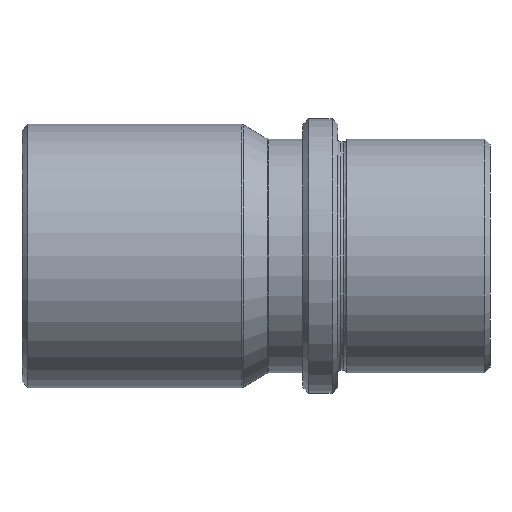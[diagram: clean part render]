
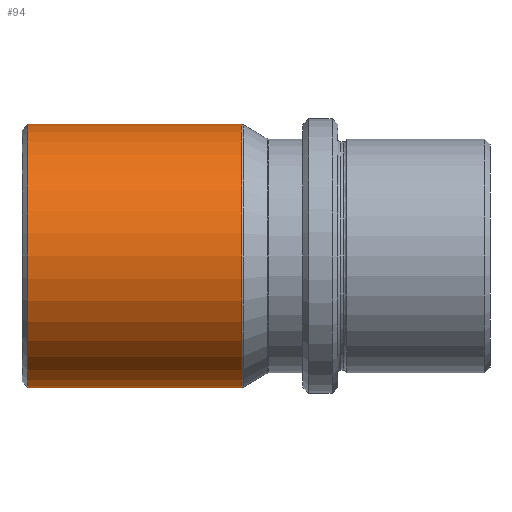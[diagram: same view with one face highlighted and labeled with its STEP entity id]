
A CAD part, left-side view. The second image highlights one B-rep face of the part: STEP entity #94.
In plain terms, the highlighted face is a revolution surface.
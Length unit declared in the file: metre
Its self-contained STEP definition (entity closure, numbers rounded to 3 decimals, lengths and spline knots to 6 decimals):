
#94 = ADVANCED_FACE( '', ( #152 ), #153, .F. );
#152 = FACE_OUTER_BOUND( '', #356, .T. );
#153 = SURFACE_OF_REVOLUTION( '', #357, #358 );
#356 = EDGE_LOOP( '', ( #687, #688, #689, #690 ) );
#357 = B_SPLINE_CURVE_WITH_KNOTS( '', 1, ( #691, #692 ), .UNSPECIFIED., .F., .F., ( 2, 2 ), ( -10000., 10000. ), .UNSPECIFIED. );
#358 = AXIS1_PLACEMENT( '', #693, #694 );
#687 = ORIENTED_EDGE( '', *, *, #855, .F. );
#688 = ORIENTED_EDGE( '', *, *, #849, .T. );
#689 = ORIENTED_EDGE( '', *, *, #845, .F. );
#690 = ORIENTED_EDGE( '', *, *, #848, .T. );
#691 = CARTESIAN_POINT( '', ( 0., 10000.079, -0.0225 ) );
#692 = CARTESIAN_POINT( '', ( 0., -9999.921, -0.0225 ) );
#693 = CARTESIAN_POINT( '', ( 0., 0.08, 0. ) );
#694 = DIRECTION( '', ( 0., 1., 0. ) );
#845 = EDGE_CURVE( '', #936, #934, #939, .T. );
#848 = EDGE_CURVE( '', #936, #944, #945, .F. );
#849 = EDGE_CURVE( '', #946, #934, #947, .T. );
#855 = EDGE_CURVE( '', #946, #944, #955, .F. );
#934 = VERTEX_POINT( '', #1100 );
#936 = VERTEX_POINT( '', #1112 );
#939 = CIRCLE( '', #1125, 0.0225 );
#944 = VERTEX_POINT( '', #1130 );
#945 = LINE( '', #1131, #1132 );
#946 = VERTEX_POINT( '', #1133 );
#947 = LINE( '', #1134, #1135 );
#955 = CIRCLE( '', #1145, 0.0225 );
#1100 = CARTESIAN_POINT( '', ( 0., 0.042464, -0.0225 ) );
#1112 = CARTESIAN_POINT( '', ( 0., 0.042464, 0.0225 ) );
#1125 = AXIS2_PLACEMENT_3D( '', #1325, #1326, #1327 );
#1130 = CARTESIAN_POINT( '', ( 0., 0.079, 0.0225 ) );
#1131 = CARTESIAN_POINT( '', ( 0., 0.079, 0.0225 ) );
#1132 = VECTOR( '', #1334, 1. );
#1133 = CARTESIAN_POINT( '', ( 0., 0.079, -0.0225 ) );
#1134 = CARTESIAN_POINT( '', ( 0., 0.079, -0.0225 ) );
#1135 = VECTOR( '', #1335, 1. );
#1145 = AXIS2_PLACEMENT_3D( '', #1347, #1348, #1349 );
#1325 = CARTESIAN_POINT( '', ( 0., 0.042464, 0. ) );
#1326 = DIRECTION( '', ( 0., -1., 0. ) );
#1327 = DIRECTION( '', ( 0., 0., -1. ) );
#1334 = DIRECTION( '', ( 0., -1., 0. ) );
#1335 = DIRECTION( '', ( 0., -1., 0. ) );
#1347 = CARTESIAN_POINT( '', ( 0., 0.079, 0. ) );
#1348 = DIRECTION( '', ( 0., -1., 0. ) );
#1349 = DIRECTION( '', ( 0., 0., -1. ) );
